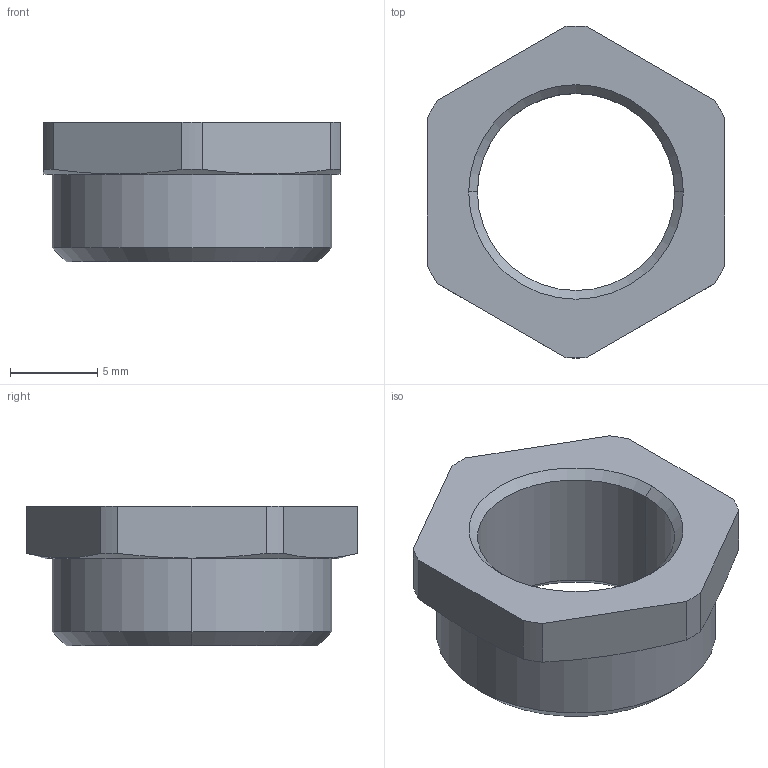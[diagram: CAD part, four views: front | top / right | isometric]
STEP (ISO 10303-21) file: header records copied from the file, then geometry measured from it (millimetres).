
FILE_DESCRIPTION (( 'STEP AP203' ), '1' );
FILE_NAME ('M16PG7-OMR.STEP', '2006-05-22T11:27:25', ( ' ' ), ( '' ), 'SwSTEP 2.0', 'SolidWorks 2005278', '' );
FILE_SCHEMA (( 'CONFIG_CONTROL_DESIGN' ));
Length unit declared in the file: millimetre
Products named in the file (1): M16PG7-OMR
Bounding box: 17 x 19 x 8 mm (x, y, z)
Volume: 925.6 mm3; surface area: 958.1 mm2
Topology: 1 solids, 1 shells, 64 faces, 168 edges, 110 vertices
Faces by surface type: plane 46, cylinder 10, cone 8
Entity records: 2049 total; most frequent: CARTESIAN_POINT 375, ORIENTED_EDGE 336, DIRECTION 318, EDGE_CURVE 168, VECTOR 132, LINE 132, VERTEX_POINT 110, AXIS2_PLACEMENT_3D 93
